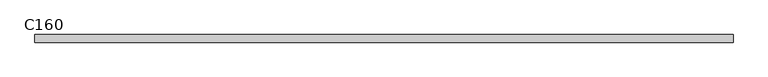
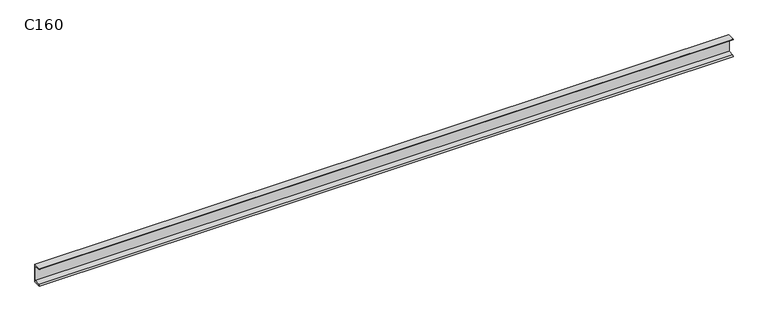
"""IFC4 building model written with IfcOpenShell, lengths in millimetres: beam geometry, RPLN C - Ceowniki normalne : C160."""

from ifc_helpers import new_model, si_unit, point, frame, frame_2d, origin, place, context, project, spatial, polyline, circle_curve, trimmed, segment, composite_curve, outline, extrude, source, transform, mapped, element, save


def c160_97cef8d6(model_context):
    return source(origin(), model_context, "Body", "SweptSolid", [
        extrude(outline(composite_curve([segment(polyline([(18.4, 80.0), (18.4, -80.0), (-46.6, -80.0)]), True, "CONTINUOUS"), segment(trimmed(circle_curve(frame_2d((-36.1, -80.0)), 10.5), [point((-46.6, -80.0))], [point((-36.1, -69.5))], False, "CARTESIAN"), True, "CONTINUOUS"), segment(polyline([(-36.1, -69.5), (10.9, -62.0559313), (10.9, 62.0559313), (-36.1, 69.5)]), True, "CONTINUOUS"), segment(trimmed(circle_curve(frame_2d((-36.1, 80.0)), 10.5), [point((-36.1, 69.5))], [point((-46.6, 80.0))], False, "CARTESIAN"), True, "CONTINUOUS"), segment(polyline([(-46.6, 80.0), (18.4, 80.0)]), True, "CONTINUOUS")], self_intersect=False)), frame((-2992.5, 0.0, 0.0), z_axis=(1.0, 0.0, 0.0), x_axis=(0.0, 1.0, 0.0)), (0.0, 0.0, 1.0), 5972.2999994),
    ])


if __name__ == "__main__":
    model = new_model("IFC4")
    model_context = context("Model", 3, world=origin())
    ifc_project = project(units=[si_unit("LENGTHUNIT", "METRE", prefix="MILLI")], contexts=[model_context])
    site = spatial("IfcSite", under=ifc_project)
    building = spatial("IfcBuilding", under=site)
    placement = place(None, origin())
    c160_shape = c160_97cef8d6(model_context)
    element("IfcBeam", 1, ObjectType="RPLN C - Ceowniki normalne : C160", at=placement, inside=building, context=model_context, shape_type="MappedRepresentation", body=[
        mapped(c160_shape, transform((0.0, 0.0, 0.0), x_axis=(1.0, 0.0, 0.0), y_axis=(0.0, 1.0, 0.0), z_axis=(0.0, 0.0, 1.0))),
    ])
    save(model, "model.ifc")
